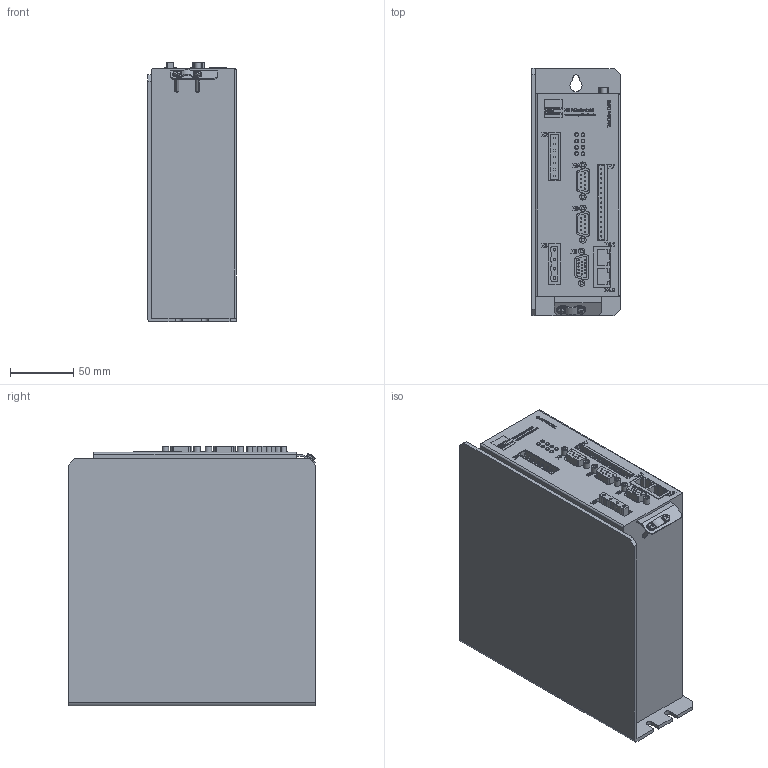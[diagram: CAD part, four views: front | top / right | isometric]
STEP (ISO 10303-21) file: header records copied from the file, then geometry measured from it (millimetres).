
FILE_DESCRIPTION(/* description */ ('Alibre Inc.'),/* implementation_level */ '2;1');
FILE_NAME(/* name */ 'export0',/* time_stamp */ '2011-02-11T08:30:00+01:00',/* author */ (''),/* organization */ ('ESR Pollmeier GmbH'),/* preprocessor_version */ 'ST-DEVELOPER v10',/* originating_system */ 'Alibre',/* authorisation */ '');
FILE_SCHEMA (('CONFIG_CONTROL_DESIGN'));
Length unit declared in the file: centimetre
Products named in the file (4): ID_1; ID_2; BÜLTE | rundkopfschrauben_M3_16
Bounding box: 70 x 195 x 205 mm (x, y, z)
Surface area: 143892.3 mm2
Topology: 19 solids, 28 shells, 1830 faces, 4690 edges, 3116 vertices
Faces by surface type: plane 1026, bspline 608, cylinder 180, torus 8, sphere 4, cone 4
Full cylindrical faces by diameter (mm): 1 x57, 2 x4, 2.5 x16, 3 x8, 3.1 x2, 5 x16
Entity records: 53908 total; most frequent: CARTESIAN_POINT 14849, ORIENTED_EDGE 9074, DIRECTION 5034, EDGE_CURVE 4521, VERTEX_POINT 3078, VECTOR 2941, LINE 2941, EDGE_LOOP 2171
